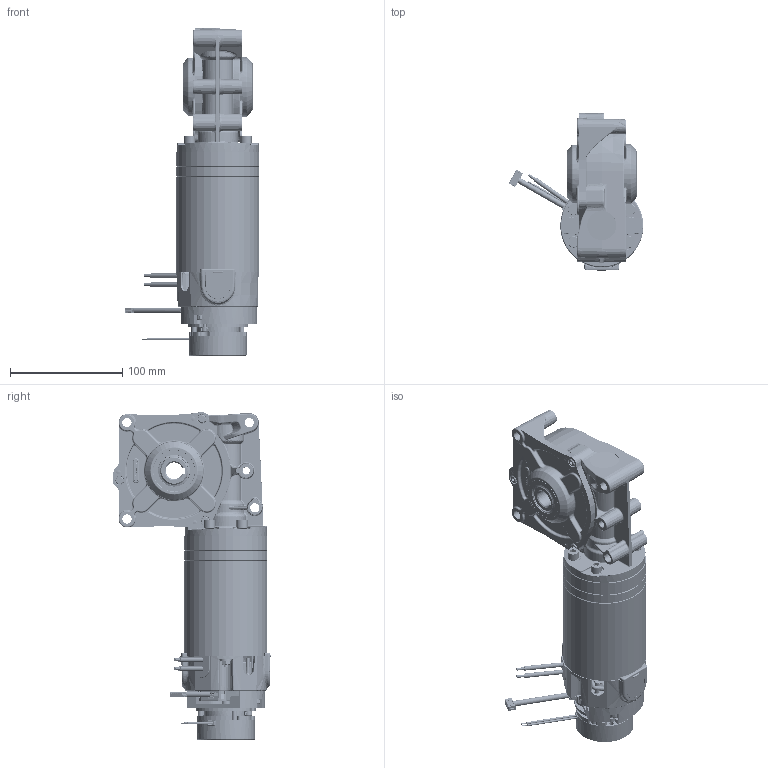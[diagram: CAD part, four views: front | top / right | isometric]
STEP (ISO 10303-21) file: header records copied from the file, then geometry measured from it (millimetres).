
FILE_DESCRIPTION (( 'STEP AP214' ), '1' );
FILE_NAME ('BRx70-40-GB12 - Encoder - Brake (render model).STEP', '2024-01-10T14:57:36', ( '' ), ( '' ), 'SwSTEP 2.0', 'SolidWorks 2023', '' );
FILE_SCHEMA (( 'AUTOMOTIVE_DESIGN' ));
Length unit declared in the file: millimetre
Products named in the file (1): BRx70-40-GB12 - Encoder - Brake (render model)
Bounding box: 119.92 x 141.46 x 292.29 mm (x, y, z)
Surface area: 297876.3 mm2 (no closed solid volume)
Topology: 0 solids, 76 shells, 7564 faces, 19353 edges, 11986 vertices
Faces by surface type: cylinder 2619, plane 2477, bspline 1113, cone 702, torus 549, sphere 104
Entity records: 364004 total; most frequent: CARTESIAN_POINT 113422, ORIENTED_EDGE 38324, DIRECTION 30201, EDGE_CURVE 19164, AXIS2_PLACEMENT_3D 12296, VERTEX_POINT 11986, EDGE_LOOP 8134, UNCERTAINTY_MEASURE_WITH_UNIT 7640
